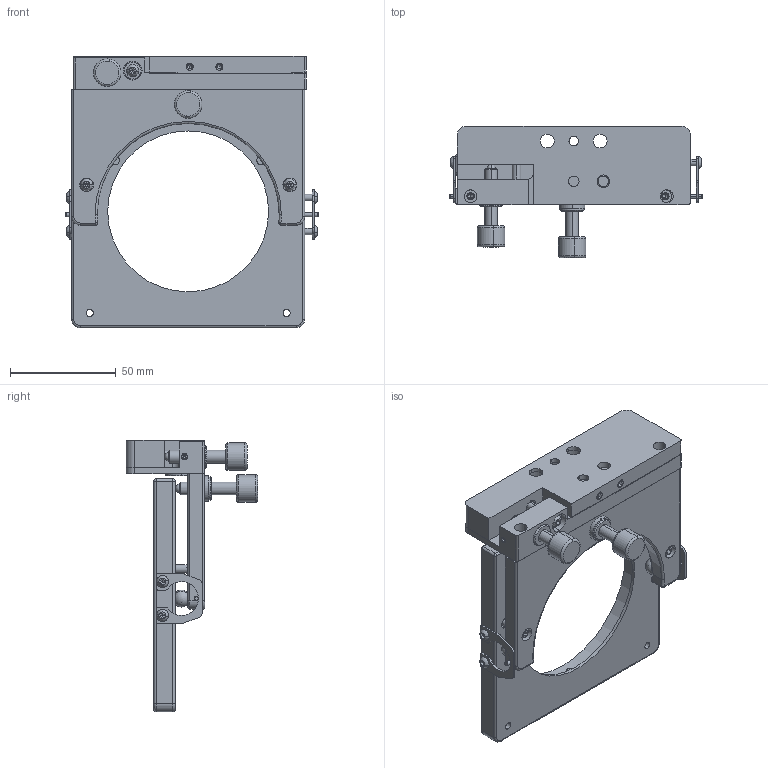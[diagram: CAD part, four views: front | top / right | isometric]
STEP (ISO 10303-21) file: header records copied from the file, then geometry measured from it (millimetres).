
FILE_DESCRIPTION (( 'STEP AP203' ), '1' );
FILE_NAME ('7MM0880謗峎覃淕噩殤.STEP', '2022-03-04T02:55:50', ( '' ), ( '' ), 'SwSTEP 2.0', 'SolidWorks 2018', '' );
FILE_SCHEMA (( 'CONFIG_CONTROL_DESIGN' ));
Length unit declared in the file: millimetre
Products named in the file (1): 7MM0880謗峎覃淕噩殤
Bounding box: 119.62 x 62.03 x 128.3 mm (x, y, z)
Volume: 154016.7 mm3; surface area: 68083.7 mm2
Topology: 51 solids, 51 shells, 882 faces, 1969 edges, 1182 vertices
Faces by surface type: plane 355, cylinder 331, cone 132, sphere 40, torus 24
Entity records: 24478 total; most frequent: DIRECTION 4509, CARTESIAN_POINT 4435, ORIENTED_EDGE 3794, EDGE_CURVE 1897, AXIS2_PLACEMENT_3D 1764, VERTEX_POINT 1170, EDGE_LOOP 1045, LINE 981
